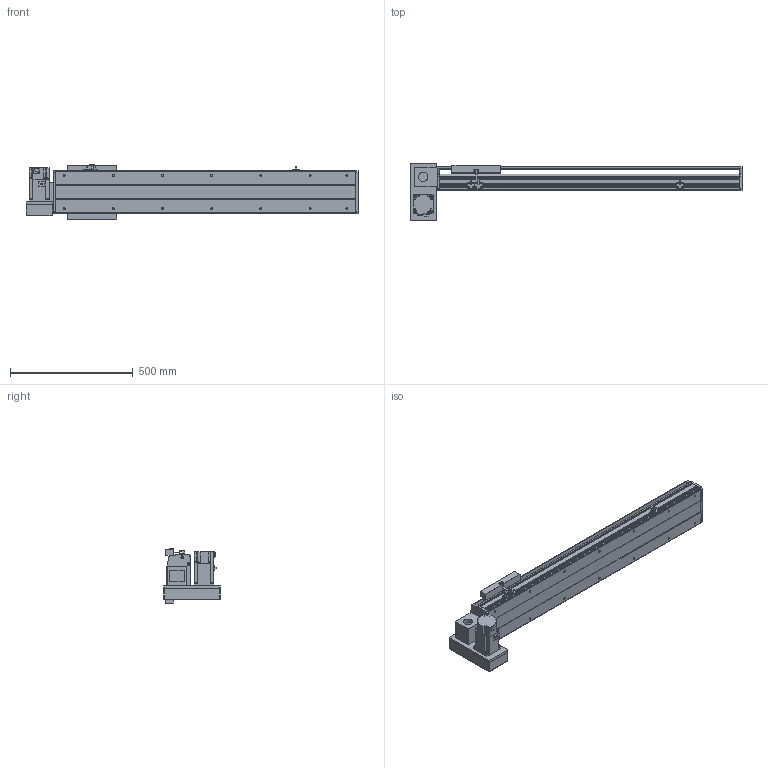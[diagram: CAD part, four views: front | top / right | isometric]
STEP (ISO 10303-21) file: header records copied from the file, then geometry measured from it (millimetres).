
FILE_DESCRIPTION(/* description */ ('STEP AP214'),/* implementation_level */ '2;1');
FILE_NAME(/* name */ 'PBS200-P40-S850-LD-T75-C1-N(0)',/* time_stamp */ '2022-06-11T08:44:03+02:00',/* author */ ('License CC BY-ND 4.0'),/* organization */ ('CADENAS'),/* preprocessor_version */ 'ST-DEVELOPER v18.102',/* originating_system */ 'PARTsolutions',/* authorisation */ ' ');
FILE_SCHEMA (('AUTOMOTIVE_DESIGN {1 0 10303 214 3 1 1}'));
Length unit declared in the file: millimetre
Products named in the file (7): PBS200-P40-S850-LD-T75-C1-N(0); PBS200_sensor; PBS200_plant; PBS200_sliser; T75-p1; PBS200T-LD_motors; PBS200-S850()_body
Assembly tree (8 placements, depth 2):
  PBS200-P40-S850-LD-T75-C1-N(0)
    PBS200_sensor  x3
    PBS200_plant
    PBS200_sliser
    T75-p1
    PBS200T-LD_motors
    PBS200-S850()_body
Bounding box: 1350 x 230 x 221 mm (x, y, z)
Volume: 10300738.2 mm3; surface area: 1671800.8 mm2
Topology: 8 solids, 8 shells, 914 faces, 2364 edges, 1542 vertices
Faces by surface type: plane 572, cylinder 296, cone 46
Full cylindrical faces by diameter (mm): 2.459 x6, 3.242 x4, 4.5 x6, 4.917 x4, 5 x6, 6 x7, 6.6 x8, 6.647 x18, 8 x6, 10 x4, 12 x8, 38 x2, 40 x1, 70 x1
Entity records: 24461 total; most frequent: DIRECTION 4303, CARTESIAN_POINT 4174, ORIENTED_EDGE 3970, EDGE_CURVE 1985, AXIS2_PLACEMENT_3D 1495, VERTEX_POINT 1366, LINE 1313, VECTOR 1313
